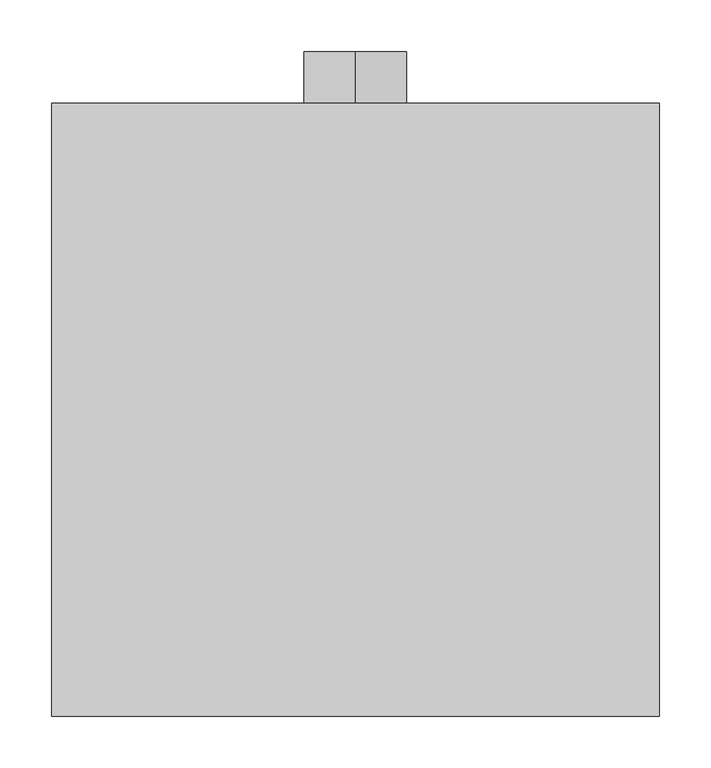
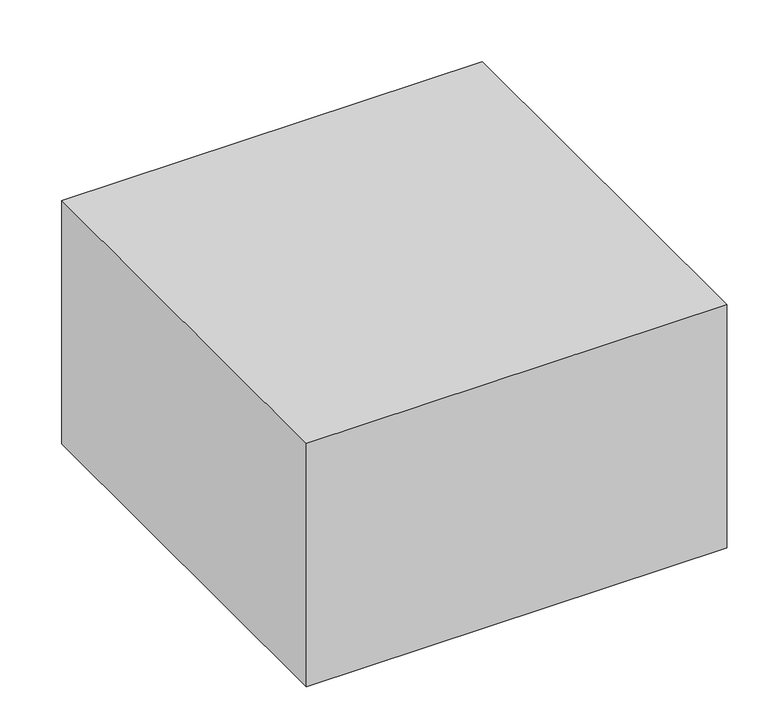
"""IFC4 building model written with IfcOpenShell, lengths in millimetres: air terminal geometry, EOL - plafonnier : EOL-P3-100-600x600."""

from ifc_helpers import new_model, si_unit, point, frame, frame_2d, origin, place, context, project, spatial, polyline, circle_curve, trimmed, segment, composite_curve, outline, extrude, source, transform, mapped, element, save
from ifc_brep_helpers import plane_surface, revolved_surface, advanced_brep


def air_terminal_1fbeafa4(model_context):
    return source(origin(), model_context, "Body", "SolidModel", [
        extrude(outline(composite_curve([segment(trimmed(circle_curve(frame_2d((241.0, 0.0)), 50.0), [point((191.0, 0.0))], [point((291.0, 0.0))], False, "CARTESIAN"), True, "CONTINUOUS"), segment(trimmed(circle_curve(frame_2d((241.0, 0.0)), 50.0), [point((291.0, 0.0))], [point((191.0, 0.0))], False, "CARTESIAN"), True, "CONTINUOUS")], self_intersect=False), holes=[composite_curve([segment(trimmed(circle_curve(frame_2d((241.0, 0.0)), 49.0), [point((241.0, 49.0))], [point((241.0, -49.0))], True, "CARTESIAN"), True, "CONTINUOUS"), segment(trimmed(circle_curve(frame_2d((241.0, 0.0)), 49.0), [point((241.0, -49.0))], [point((241.0, 49.0))], True, "CARTESIAN"), True, "CONTINUOUS")], self_intersect=False)]), frame((0.0, 590.0, 0.0), z_axis=(0.0, 1.0, 0.0), x_axis=(0.0, 0.0, 1.0)), (0.0, 0.0, 1.0), 50.0),
        advanced_brep(
        [(295.0, 590.0, 361.0), (-295.0, 590.0, 361.0), (-295.0, -5.0, 361.0), (295.0, -5.0, 361.0), (295.0, 590.0, 0.0), (295.0, -5.0, 0.0), (-295.0, -5.0, 0.0), (-295.0, 590.0, 0.0), (290.0, 585.0, 0.0), (-290.0, 585.0, 0.0), (-290.0, 0.0, 0.0), (290.0, 0.0, 0.0), (-49.0, 590.0, 241.0), (49.0, 590.0, 241.0), (290.0, 585.0, 356.0), (290.0, 0.0, 356.0), (-290.0, 0.0, 356.0), (-290.0, 585.0, 356.0), (49.0, 585.0, 241.0), (-49.0, 585.0, 241.0)],
        [
            (0, 1),
            (1, 2),
            (2, 3),
            (3, 0),
            (4, 5),
            (5, 6),
            (6, 7),
            (7, 4),
            (8, 9),
            (9, 10),
            (10, 11),
            (11, 8),
            (0, 4),
            (7, 1),
            (12, 13, circle_curve(frame((0.0, 590.0, 241.0), z_axis=(0.0, -1.0, 0.0), x_axis=(1.0, 0.0, 0.0)), 49.0)),
            (13, 12, circle_curve(frame((0.0, 590.0, 241.0), z_axis=(0.0, -1.0, 0.0), x_axis=(1.0, 0.0, 0.0)), 49.0)),
            (6, 2),
            (5, 3),
            (14, 15),
            (15, 16),
            (16, 17),
            (17, 14),
            (17, 9),
            (8, 14),
            (18, 19, circle_curve(frame((0.0, 585.0, 241.0), z_axis=(0.0, 1.0, 0.0), x_axis=(1.0, 0.0, 0.0)), 49.0)),
            (19, 18, circle_curve(frame((0.0, 585.0, 241.0), z_axis=(0.0, 1.0, 0.0), x_axis=(1.0, 0.0, 0.0)), 49.0)),
            (16, 10),
            (15, 11),
            (12, 19),
            (18, 13),
        ],
        [
            plane_surface(frame((-295.0, 590.0, 361.0), z_axis=(0.0, 0.0, 1.0), x_axis=(-1.0, 0.0, 0.0))),
            plane_surface(frame((-295.0, 590.0, 0.0), z_axis=(0.0, 0.0, -1.0), x_axis=(1.0, 0.0, 0.0))),
            plane_surface(frame((295.0, 590.0, 361.0), z_axis=(0.0, 1.0, 0.0), x_axis=(0.0, 0.0, -1.0))),
            plane_surface(frame((-295.0, 590.0, 361.0), z_axis=(-1.0, 0.0, 0.0), x_axis=(0.0, 0.0, -1.0))),
            plane_surface(frame((-295.0, -5.0, 361.0), z_axis=(0.0, -1.0, 0.0), x_axis=(0.0, 0.0, -1.0))),
            plane_surface(frame((295.0, -5.0, 361.0), z_axis=(1.0, 0.0, 0.0), x_axis=(0.0, 0.0, -1.0))),
            plane_surface(frame((-290.0, 585.0, 356.0), z_axis=(0.0, 0.0, -1.0), x_axis=(-1.0, 0.0, 0.0))),
            plane_surface(frame((290.0, 585.0, 356.0), z_axis=(0.0, -1.0, 0.0), x_axis=(0.0, 0.0, -1.0))),
            plane_surface(frame((-290.0, 585.0, 356.0), z_axis=(1.0, 0.0, 0.0), x_axis=(0.0, 0.0, -1.0))),
            plane_surface(frame((-290.0, 0.0, 356.0), z_axis=(0.0, 1.0, 0.0), x_axis=(0.0, 0.0, -1.0))),
            plane_surface(frame((290.0, 0.0, 356.0), z_axis=(-1.0, 0.0, 0.0), x_axis=(0.0, 0.0, -1.0))),
            revolved_surface(polyline([(49.0, 585.0, 241.0), (49.0, 590.0, 241.0)]), (0.0, 640.0, 241.0), (0.0, -1.0, 0.0)),
        ],
        [
            (0, [[1, 2, 3, 4]]),
            (1, [[5, 6, 7, 8], [9, 10, 11, 12]]),
            (2, [[-1, 13, -8, 14], [15, 16]]),
            (3, [[-2, -14, -7, 17]]),
            (4, [[-3, -17, -6, 18]]),
            (5, [[-4, -18, -5, -13]]),
            (6, [[19, 20, 21, 22]]),
            (7, [[-22, 23, -9, 24], [25, 26]]),
            (8, [[-21, 27, -10, -23]]),
            (9, [[-20, 28, -11, -27]]),
            (10, [[-19, -24, -12, -28]]),
            (11, [[29, -25, 30, -15]]),
            (11, [[-29, -16, -30, -26]]),
        ],
    ),
    ])


if __name__ == "__main__":
    model = new_model("IFC4")
    model_context = context("Model", 3, world=origin())
    ifc_project = project(units=[si_unit("LENGTHUNIT", "METRE", prefix="MILLI")], contexts=[model_context])
    site = spatial("IfcSite", under=ifc_project)
    building = spatial("IfcBuilding", under=site)
    placement = place(None, origin())
    air_terminal_shape = air_terminal_1fbeafa4(model_context)
    element("IfcAirTerminal", 1, ObjectType="EOL - plafonnier : EOL-P3-100-600x600", at=placement, inside=building, context=model_context, shape_type="MappedRepresentation", body=[
        mapped(air_terminal_shape, transform((0.0, 0.0, 0.0), x_axis=(1.0, 0.0, 0.0), y_axis=(0.0, 1.0, 0.0), z_axis=(0.0, 0.0, 1.0))),
    ])
    save(model, "model.ifc")
